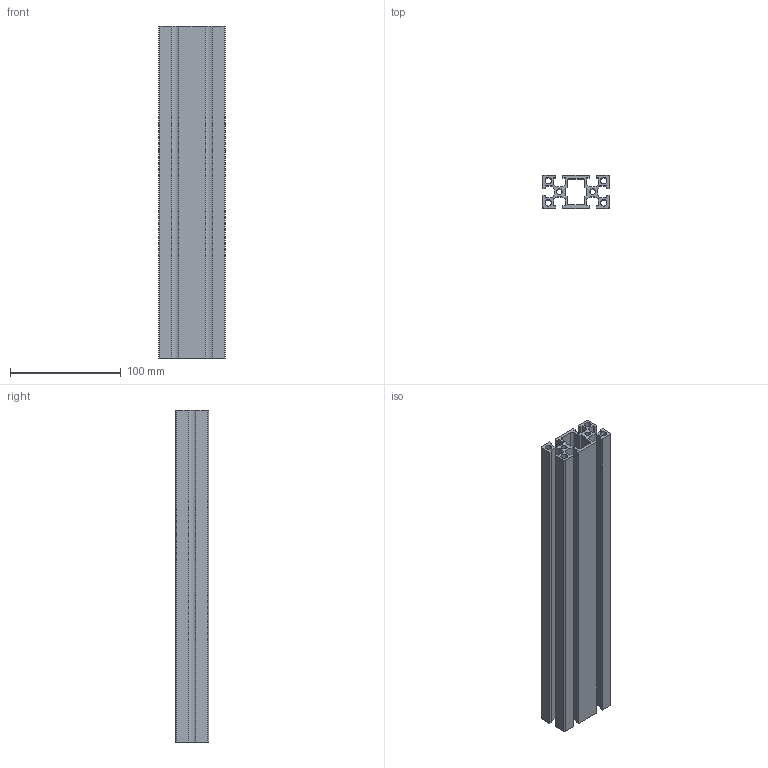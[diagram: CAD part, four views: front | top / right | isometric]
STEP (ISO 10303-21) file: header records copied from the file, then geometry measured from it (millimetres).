
FILE_DESCRIPTION (( 'STEP AP203' ), '1' );
FILE_NAME ('18-CG-3060-6.STEP', '2015-07-07T03:06:20', ( '' ), ( '' ), 'SwSTEP 2.0', 'SolidWorks 2013', '' );
FILE_SCHEMA (( 'CONFIG_CONTROL_DESIGN' ));
Length unit declared in the file: millimetre
Products named in the file (1): 18-CG-3060-6
Bounding box: 60 x 30 x 300 mm (x, y, z)
Volume: 205271.5 mm3; surface area: 157530.9 mm2
Topology: 1 solids, 1 shells, 87 faces, 255 edges, 170 vertices
Faces by surface type: plane 60, cylinder 27
Entity records: 2988 total; most frequent: CARTESIAN_POINT 513, ORIENTED_EDGE 510, DIRECTION 485, EDGE_CURVE 255, LINE 201, VECTOR 201, VERTEX_POINT 170, AXIS2_PLACEMENT_3D 142
